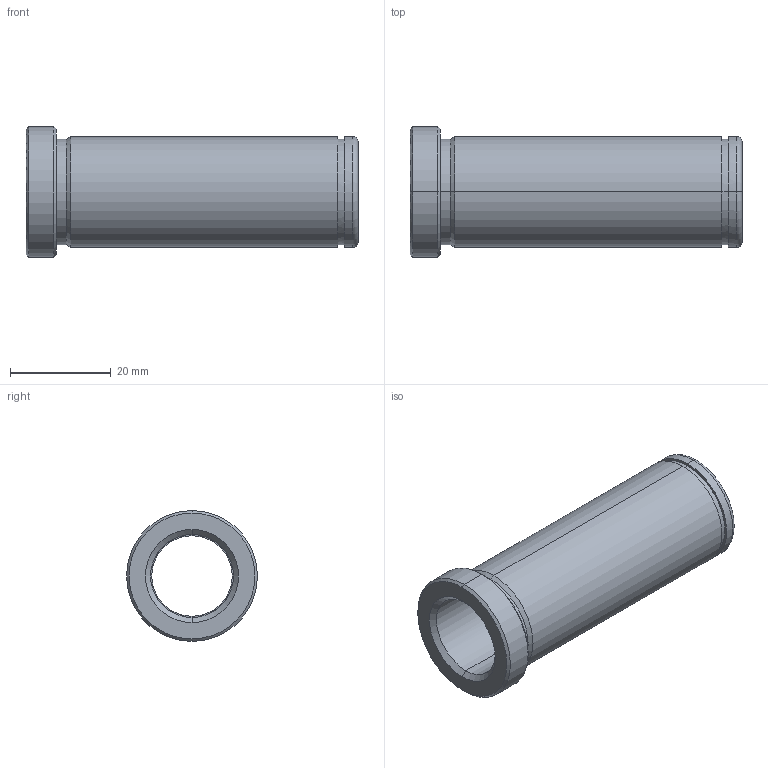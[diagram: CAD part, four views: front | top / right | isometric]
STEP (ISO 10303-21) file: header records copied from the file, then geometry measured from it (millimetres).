
FILE_DESCRIPTION(('CATIA V5 STEP Exchange'),'2;1');
FILE_NAME('C:\Users\Utente\Desktop\IO LAVORO\3D X SITO CF\X SITO\PLASTICA\553\553-16X66.stp','2021-05-21T18:45:01+00:00',('none'),('none'),'CATIA Version 5 Release 20 GA (IN-10)','CATIA V5 STEP AP203','none');
FILE_SCHEMA(('CONFIG_CONTROL_DESIGN'));
Length unit declared in the file: millimetre
Products named in the file (1): 553-16X66
Bounding box: 66 x 26 x 26 mm (x, y, z)
Volume: 12255 mm3; surface area: 8605.3 mm2
Topology: 1 solids, 1 shells, 32 faces, 102 edges, 76 vertices
Faces by surface type: cylinder 14, cone 8, plane 6, torus 4
Entity records: 1334 total; most frequent: CARTESIAN_POINT 389, ORIENTED_EDGE 204, DIRECTION 152, EDGE_CURVE 102, AXIS2_PLACEMENT_3D 99, VERTEX_POINT 76, CIRCLE 66, EDGE_LOOP 38
